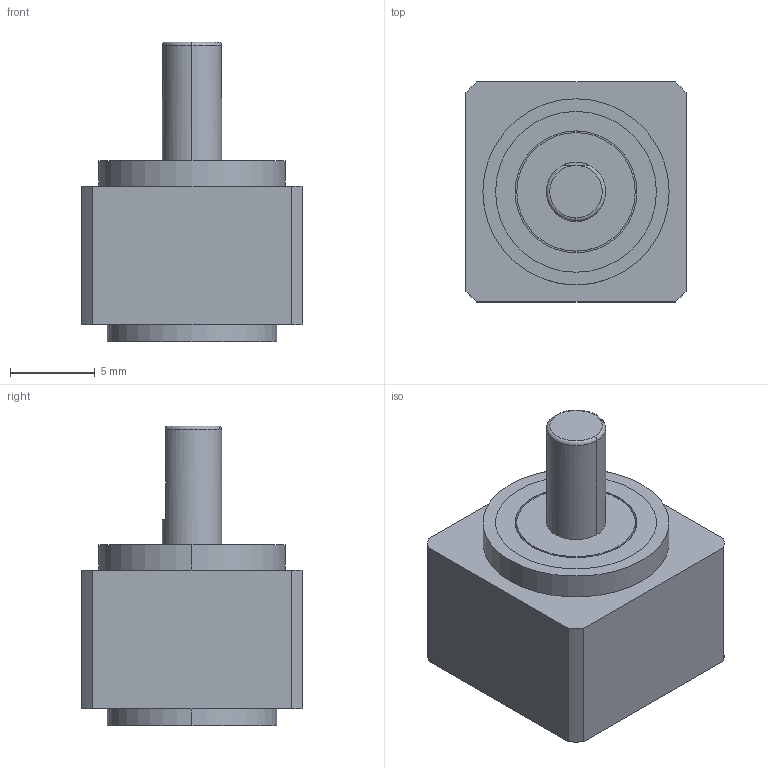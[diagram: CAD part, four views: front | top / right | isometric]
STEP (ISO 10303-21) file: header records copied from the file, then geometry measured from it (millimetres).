
FILE_DESCRIPTION (( 'STEP AP214' ), '1' );
FILE_NAME ('CSF-03-xxx-1U-C.STEP', '2024-12-20T07:39:43', ( 'PC' ), ( 'Microsoft' ), 'SwSTEP 2.0', 'SolidWorks 2016', '' );
FILE_SCHEMA (( 'AUTOMOTIVE_DESIGN' ));
Length unit declared in the file: millimetre
Products named in the file (11): CSF-03-1U-C-04_蕼偞; CSF-03-1U-C-02_蕼偞; CSF-03-1U-C-03_蕼偞; 粣創675Z 8x5x2.5_蕼偞; CSF-03-1U-C-01_蕼偞; CSF-03-xxx-1U-C; CSF-03-1U-C-05_蕼偞; CSF-03-1U-C-06_蕼偞; CSF-03-xxx-1U-C  疏楷汜ん_蕼偞; 旮僱⑩粣創  67罕2.5_蕼偞; 柔性轴承8.18x6.12x1.4x1.3_預設
Assembly tree (10 placements, depth 3):
  CSF-03-xxx-1U-C
    CSF-03-1U-C-01_蕼偞
    粣創675Z 8x5x2.5_蕼偞
    CSF-03-1U-C-03_蕼偞
    CSF-03-1U-C-02_蕼偞
    CSF-03-xxx-1U-C  疏楷汜ん_蕼偞
      CSF-03-1U-C-04_蕼偞
      柔性轴承8.18x6.12x1.4x1.3_預設
      旮僱⑩粣創  67罕2.5_蕼偞
    CSF-03-1U-C-06_蕼偞
    CSF-03-1U-C-05_蕼偞
Bounding box: 13 x 13 x 17.7 mm (x, y, z)
Volume: 1455.6 mm3; surface area: 2663.7 mm2
Topology: 25 solids, 25 shells, 422 faces, 945 edges, 564 vertices
Faces by surface type: cylinder 159, plane 104, bspline 87, torus 52, cone 20
Entity records: 13643 total; most frequent: CARTESIAN_POINT 4286, DIRECTION 1861, ORIENTED_EDGE 1770, EDGE_CURVE 885, AXIS2_PLACEMENT_3D 835, VERTEX_POINT 564, EDGE_LOOP 491, CIRCLE 486
